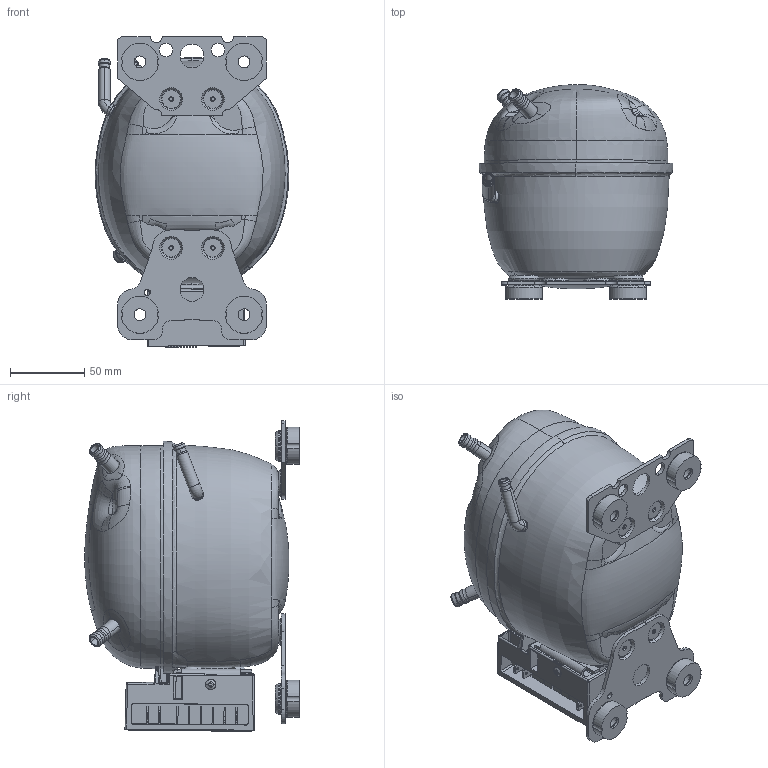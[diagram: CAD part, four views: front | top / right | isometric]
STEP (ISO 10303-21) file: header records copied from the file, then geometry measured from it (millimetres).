
FILE_DESCRIPTION((''),'2;1');
FILE_NAME('101Z0204_EMPTY_ASM_ASM','2025-04-30T16:04:25',('CN6559'),(''),'CREO PARAMETRIC BY PTC INC, 2022162','CREO PARAMETRIC BY PTC INC, 2022162','');
FILE_SCHEMA(('CONFIG_CONTROL_DESIGN'));
Products named in the file (36): 101B0401_1; 117-3617_BODY_1; 117-3617_PINS_1; 117-3617_GLASS_FUSED_1; 117-3617_ASM_1_ASM; 101B6004_1; 101B0501_1; 102B1507_1; 101B0605_1; 101B0651_1; 101B6003_1; 101B0011_ASM_1_ASM; 102B1730BEND2_1; 101B0601_1; 117-7218_1; 101B0005_ASM_1_ASM; 101B0303_AF2_1; 101B0806_1; 101B0156_ASM_1_ASM; 101Z0204_EMPTY_ASM_1_ASM; 101N0226_3D_MODELS; 118-3661; ADMI1514D920US5M-2541; ADMI1514D920US5M-4252; ADMI1514D920US5M-7192; ADMI1514D920US5M-13487; ADMI1514D920US5M-16985; ADMI1514D920US5M-27993; ADMI1514D920US5M-28301; ADMI1514D920US5M-33290; ADMI1514D920US5M-37808; ADMI1514D920US5M-38095; LC25B_X2_65396B3E603B88C5_X0_-2_ASM; 101N0226_ASM; 681Z1148; 101Z0204_EMPTY_ASM_ASM
Assembly tree (46 placements, depth 6):
  101Z0204_EMPTY_ASM_ASM
    101Z0204_EMPTY_ASM_1_ASM
      101B0005_ASM_1_ASM
        101B0011_ASM_1_ASM
          101B0401_1
          117-3617_ASM_1_ASM
            117-3617_BODY_1
            117-3617_PINS_1  x3
            117-3617_GLASS_FUSED_1  x3
          101B6004_1
          101B0501_1
          102B1507_1
          101B0605_1
          101B0651_1  x4
          101B6003_1
        102B1730BEND2_1
        101B0601_1
        117-7218_1
      101B0156_ASM_1_ASM
        101B0303_AF2_1
        101B0806_1  x2
    101N0226_3D_MODELS
    118-3661  x4
    101N0226_ASM
      LC25B_X2_65396B3E603B88C5_X0_-2_ASM
        ADMI1514D920US5M-2541
        ADMI1514D920US5M-4252
        ADMI1514D920US5M-7192
        ADMI1514D920US5M-13487
        ADMI1514D920US5M-16985
        ADMI1514D920US5M-27993
        ADMI1514D920US5M-28301
        ADMI1514D920US5M-33290
        ADMI1514D920US5M-37808
        ADMI1514D920US5M-38095
    681Z1148
Bounding box: 130.31 x 144.2 x 208.95 mm (x, y, z)
Volume: 335633.4 mm3; surface area: 259779.8 mm2
Topology: 39 solids, 39 shells, 2313 faces, 6190 edges, 3951 vertices
Faces by surface type: plane 907, cylinder 554, bspline 472, cone 159, torus 140, sphere 37, extrusion 32, revolution 12
Entity records: 148013 total; most frequent: CARTESIAN_POINT 97268, ORIENTED_EDGE 11434, DIRECTION 8971, EDGE_CURVE 5717, VERTEX_POINT 3699, AXIS2_PLACEMENT_3D 3107, VECTOR 2753, LINE 2721
